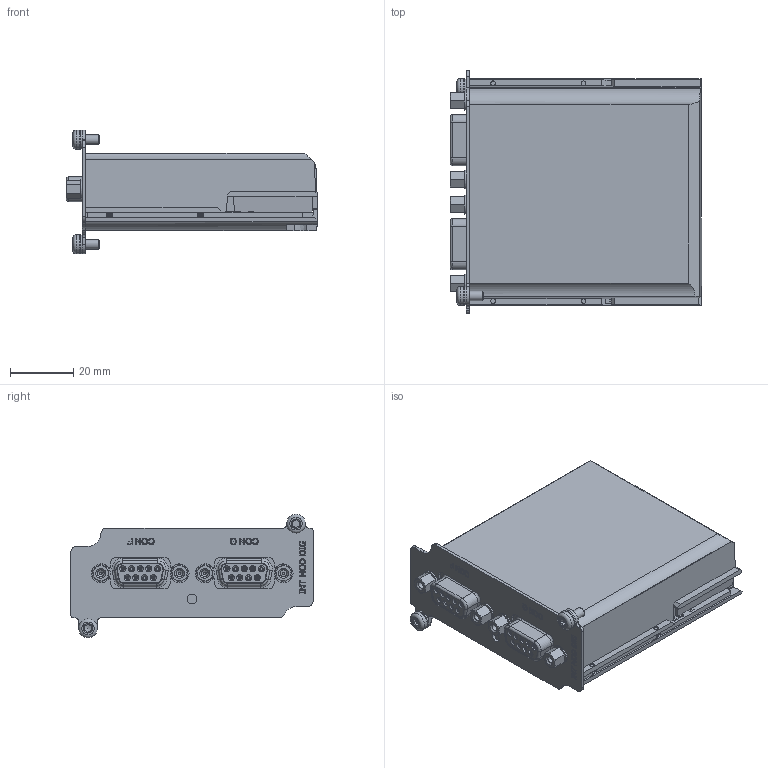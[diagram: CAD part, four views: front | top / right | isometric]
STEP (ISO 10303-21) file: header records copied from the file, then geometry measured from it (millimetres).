
FILE_DESCRIPTION(/* description */ (''),/* implementation_level */ '2;1');
FILE_NAME(/* name */ 'A:\Data\Interfaces\presentations\Int mod dig.stp',/* time_stamp */ '2021-01-12T13:35:35+01:00',/* author */ ('Delta'),/* organization */ (''),/* preprocessor_version */ 'ST-DEVELOPER v17.2',/* originating_system */ 'Autodesk Inventor 2019',/* authorisation */ '');
FILE_SCHEMA (('AUTOMOTIVE_DESIGN { 1 0 10303 214 3 1 1 }'));
Products named in the file (1): Assembly interf.can profibus_Shrinkwrap_1
Bounding box: 79.8 x 77 x 39.2 mm (x, y, z)
Volume: 114121.3 mm3; surface area: 26212.1 mm2
Topology: 1 solids, 1 shells, 1301 faces, 3531 edges, 2314 vertices
Faces by surface type: plane 766, bspline 283, cylinder 152, cone 60, torus 40
Full cylindrical faces by diameter (mm): 1.06 x18, 2.156 x4, 2.76 x4, 3 x3, 3.2 x2, 3.5 x2, 6 x8
Entity records: 78637 total; most frequent: CARTESIAN_POINT 46649, ORIENTED_EDGE 7058, DIRECTION 5534, EDGE_CURVE 3529, VERTEX_POINT 2314, LINE 2174, VECTOR 2174, AXIS2_PLACEMENT_3D 1680
